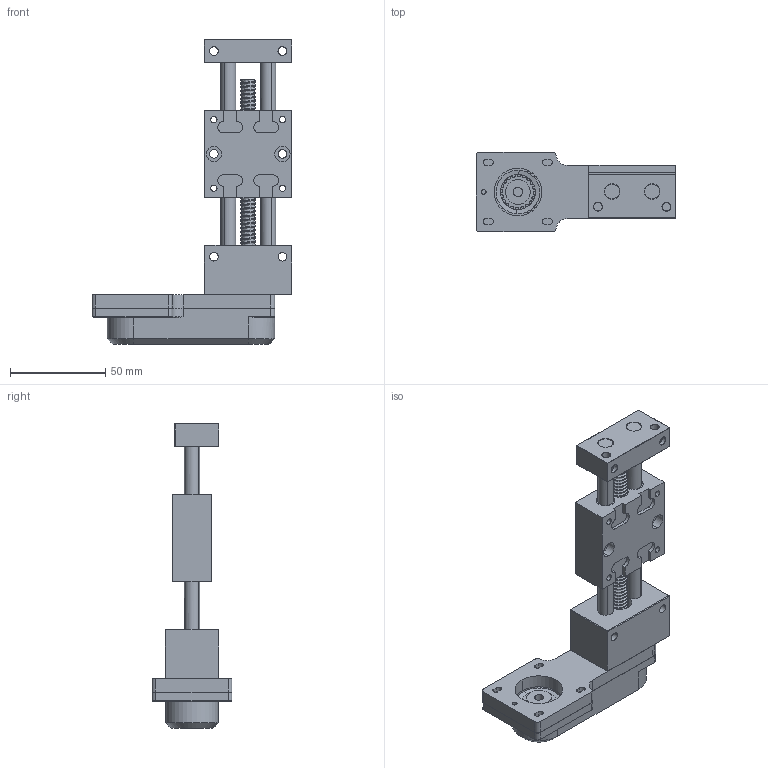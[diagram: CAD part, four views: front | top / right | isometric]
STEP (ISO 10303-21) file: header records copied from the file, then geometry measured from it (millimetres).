
FILE_DESCRIPTION (( 'STEP AP203' ), '1' );
FILE_NAME ('MPT5008-AS-B.STEP', '2015-12-11T10:03:53', ( '' ), ( '' ), 'SwSTEP 2.0', 'SolidWorks 2014', '' );
FILE_SCHEMA (( 'CONFIG_CONTROL_DESIGN' ));
Length unit declared in the file: millimetre
Products named in the file (4): MPT0812-002-Antrieb seitlich; MPT5008-AS-B; MPT5008-000-01-Festteil-AS; MPT08-000-02-Schlitten-komplett
Assembly tree (3 placements, depth 2):
  MPT5008-AS-B
    MPT5008-000-01-Festteil-AS
    MPT08-000-02-Schlitten-komplett
    MPT0812-002-Antrieb seitlich
Bounding box: 105 x 42 x 160 mm (x, y, z)
Volume: 131645.8 mm3; surface area: 66141.6 mm2
Topology: 4 solids, 18 shells, 1689 faces, 4460 edges, 2838 vertices
Faces by surface type: plane 729, cylinder 669, cone 187, bspline 86, torus 18
Entity records: 89517 total; most frequent: CARTESIAN_POINT 47728, ORIENTED_EDGE 8868, DIRECTION 8537, EDGE_CURVE 4434, AXIS2_PLACEMENT_3D 3094, VERTEX_POINT 2838, VECTOR 2349, LINE 2349
